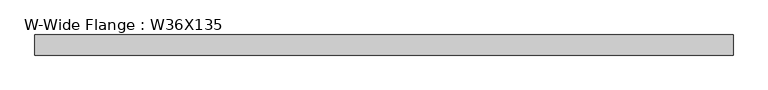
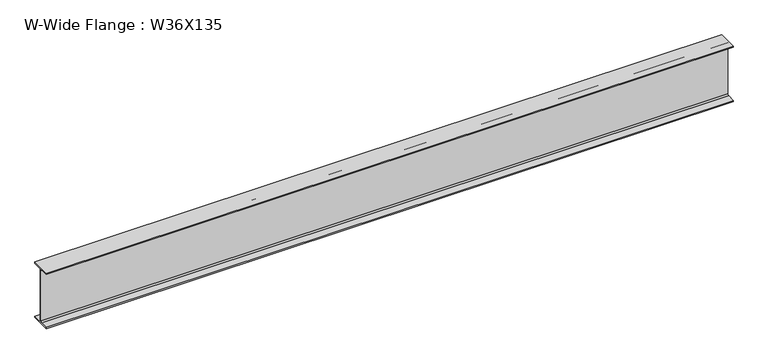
"""IFC4 building model written with IfcOpenShell, lengths in millimetres: beam geometry, W-Wide Flange : W36X135."""

import ifcopenshell
import ifcopenshell.guid

model = None  # the IFC model being written
_history = None  # IfcOwnerHistory: only IFC2X3 demands one
_inside = {}  # id of a spatial element -> (the spatial element, [elements in it])
_under = {}  # id of a project, library or spatial element -> (it, [spatial elements below it])
_declared = {}  # id of a project -> (the project, [libraries it declares])
_typed = {}  # id of a type object -> (the type object, [elements of that type])
_made_of = {}  # id of a material, layer set ... -> (it, [elements and type objects made of it])


def new_model(schema):
    """Start an empty IFC model of exactly this schema.

    Asked for "IFC4X3", IfcOpenShell would pick the latest addendum, in which some entities
    have other attributes; the version numbers below select the first issue.
    IFC2X3 requires an IfcOwnerHistory on every rooted entity: one is made here for all.
    """
    global model, _history
    if schema == "IFC4X3":
        model = ifcopenshell.file(schema_version=(4, 3, 0, 0))
    else:
        model = ifcopenshell.file(schema=schema)
    _inside.clear()
    _under.clear()
    _declared.clear()
    _typed.clear()
    _made_of.clear()
    _history = None
    if model.schema == "IFC2X3":
        org = make("IfcOrganization", Name="unknown")
        user = make(
            "IfcPersonAndOrganization",
            ThePerson=make("IfcPerson", FamilyName="unknown"),
            TheOrganization=org,
        )
        app = make(
            "IfcApplication",
            ApplicationDeveloper=org,
            Version="unknown",
            ApplicationFullName="unknown",
            ApplicationIdentifier="unknown",
        )
        _history = make(
            "IfcOwnerHistory",
            OwningUser=user,
            OwningApplication=app,
            ChangeAction="ADDED",
            CreationDate=0,
        )
    return model


def make(cls, **values):
    """One entity of the class cls with the attributes given. An attribute that is None is left unset."""
    return model.create_entity(
        cls, **{name: value for name, value in values.items() if value is not None}
    )


def rooted(cls, **values):
    """An entity with a GlobalId (a new one), such as an element, a storey or a relation."""
    return make(cls, GlobalId=ifcopenshell.guid.new(), OwnerHistory=_history, **values)


def si_unit(unit_type, name, prefix=None):
    """IfcSIUnit, for example si_unit("LENGTHUNIT", "METRE", prefix="MILLI")."""
    return make("IfcSIUnit", UnitType=unit_type, Prefix=prefix, Name=name)


def assignment(units):
    """IfcUnitAssignment: the units of a project."""
    return None if units is None else make("IfcUnitAssignment", Units=units)


def point(xyz):
    """IfcCartesianPoint."""
    return None if xyz is None else make("IfcCartesianPoint", Coordinates=xyz)


def direction(xyz):
    """IfcDirection."""
    return None if xyz is None else make("IfcDirection", DirectionRatios=xyz)


def frame(location, z_axis=None, x_axis=None):
    """IfcAxis2Placement3D, a coordinate frame: its origin and axes. An axis left out is left unset."""
    return make(
        "IfcAxis2Placement3D",
        Location=point(location),
        Axis=direction(z_axis),
        RefDirection=direction(x_axis),
    )


def frame_2d(location, x_axis=None):
    """IfcAxis2Placement2D, a coordinate frame in the plane: its origin and x axis."""
    return make(
        "IfcAxis2Placement2D", Location=point(location), RefDirection=direction(x_axis)
    )


def origin():
    """The frame at (0, 0, 0) with its axes left unset."""
    return frame((0.0, 0.0, 0.0))


def place(relative_to, where):
    """IfcLocalPlacement: puts the frame where relative to a parent placement (None: the world)."""
    return make(
        "IfcLocalPlacement", PlacementRelTo=relative_to, RelativePlacement=where
    )


def context(
    kind, dimensions, precision=None, world=None, true_north=None, identifier=None
):
    """IfcGeometricRepresentationContext, for example the 3D "Model" context."""
    return make(
        "IfcGeometricRepresentationContext",
        ContextIdentifier=identifier,
        ContextType=kind,
        CoordinateSpaceDimension=dimensions,
        Precision=precision,
        WorldCoordinateSystem=world,
        TrueNorth=true_north,
    )


def project(units=None, contexts=None):
    """IfcProject with its units and contexts."""
    return rooted(
        "IfcProject",
        Name="project",
        RepresentationContexts=contexts,
        UnitsInContext=assignment(units),
    )


def spatial(cls, under=None, at=None, **own):
    """A site, building, storey or space (cls), placed at a placement, below another one or the project."""
    s = rooted(cls, ObjectPlacement=at, **own)
    if under is not None:
        _under.setdefault(under.id(), (under, []))[1].append(s)
    return s


def polyline(points):
    """IfcPolyline through the points."""
    return make("IfcPolyline", Points=[point(p) for p in points])


def circle_curve(where, radius):
    """IfcCircle in the frame where."""
    return make("IfcCircle", Position=where, Radius=radius)


def trimmed(basis, trim1, trim2, sense, master):
    """IfcTrimmedCurve: the piece of a basis curve between two trims."""
    return make(
        "IfcTrimmedCurve",
        BasisCurve=basis,
        Trim1=trim1,
        Trim2=trim2,
        SenseAgreement=sense,
        MasterRepresentation=master,
    )


def segment(curve, same_sense, transition):
    """IfcCompositeCurveSegment."""
    return make(
        "IfcCompositeCurveSegment",
        Transition=transition,
        SameSense=same_sense,
        ParentCurve=curve,
    )


def composite_curve(segments, self_intersect=None):
    """IfcCompositeCurve: segments joined end to end."""
    return make("IfcCompositeCurve", Segments=segments, SelfIntersect=self_intersect)


def outline(outer, holes=None, kind="AREA"):
    """IfcArbitraryClosedProfileDef: a profile drawn as a closed curve; with holes, ...WithVoids."""
    if holes is None:
        return make("IfcArbitraryClosedProfileDef", ProfileType=kind, OuterCurve=outer)
    return make(
        "IfcArbitraryProfileDefWithVoids",
        ProfileType=kind,
        OuterCurve=outer,
        InnerCurves=holes,
    )


def extrude(swept, where, along, depth):
    """IfcExtrudedAreaSolid: the profile swept, set in the frame where, extruded along a direction by depth."""
    return make(
        "IfcExtrudedAreaSolid",
        SweptArea=swept,
        Position=where,
        ExtrudedDirection=direction(along),
        Depth=depth,
    )


def shape(context_of_items, identifier, shape_type, items):
    """IfcShapeRepresentation: the items that make up one representation, for example the "Body"."""
    return make(
        "IfcShapeRepresentation",
        ContextOfItems=context_of_items,
        RepresentationIdentifier=identifier,
        RepresentationType=shape_type,
        Items=items,
    )


def source(mapping_origin, context_of_items, identifier, shape_type, items):
    """IfcRepresentationMap: a shape defined once, which mapped items show again and again."""
    return make(
        "IfcRepresentationMap",
        MappingOrigin=mapping_origin,
        MappedRepresentation=shape(context_of_items, identifier, shape_type, items),
    )


def transform(
    local_origin,
    x_axis=None,
    y_axis=None,
    z_axis=None,
    scale=None,
    scale2=None,
    scale3=None,
    uniform=True,
):
    """IfcCartesianTransformationOperator3D, or its non-uniform kind. x_axis, y_axis, z_axis: its Axis1, 2, 3."""
    if uniform:
        return make(
            "IfcCartesianTransformationOperator3D",
            Axis1=direction(x_axis),
            Axis2=direction(y_axis),
            LocalOrigin=point(local_origin),
            Scale=scale,
            Axis3=direction(z_axis),
        )
    return make(
        "IfcCartesianTransformationOperator3DnonUniform",
        Axis1=direction(x_axis),
        Axis2=direction(y_axis),
        LocalOrigin=point(local_origin),
        Scale=scale,
        Axis3=direction(z_axis),
        Scale2=scale2,
        Scale3=scale3,
    )


def mapped(mapping_source, mapping_target):
    """IfcMappedItem: shows the shape of a source again, moved by a transform."""
    return make(
        "IfcMappedItem", MappingSource=mapping_source, MappingTarget=mapping_target
    )


def made_of(thing, what):
    """Note that an element or type object is made of a material, layer set ...; save() writes the relation."""
    if what is not None:
        _made_of.setdefault(what.id(), (what, []))[1].append(thing)
    return thing


def element(
    cls,
    number,
    at=None,
    inside=None,
    cuts=None,
    type_object=None,
    material=None,
    context=None,
    identifier="Body",
    shape_type=None,
    held_by="IfcProductDefinitionShape",
    body=None,
    shapes=None,
    **own,
):
    """One element of the class cls, such as IfcWall. Its Tag is "e" and its number.

    at: its placement. inside: the storey or other place that contains it. cuts: it is an
    opening in that element (IfcRelVoidsElement). A single representation is given by context,
    identifier, shape_type and body (its items); several are given by shapes. held_by: the class
    of the entity that holds the representations. save() writes the other relations.
    """
    e = rooted(cls, Tag="e%d" % number, ObjectPlacement=at, **own)
    if body is not None:
        shapes = [shape(context, identifier, shape_type, body)]
    if shapes is not None:
        e.Representation = make(held_by, Representations=shapes)
    if inside is not None:
        _inside.setdefault(inside.id(), (inside, []))[1].append(e)
    if cuts is not None:
        rooted(
            "IfcRelVoidsElement", RelatingBuildingElement=cuts, RelatedOpeningElement=e
        )
    if type_object is not None:
        _typed.setdefault(type_object.id(), (type_object, []))[1].append(e)
    return made_of(e, material)


def aggregate(whole, parts):
    """IfcRelAggregates: a whole, such as a stair, and the parts it consists of."""
    return rooted("IfcRelAggregates", RelatingObject=whole, RelatedObjects=parts)


def save(model, path):
    """Write the relations noted so far, then the file.

    IfcRelAggregates (storeys below a building ...), IfcRelContainedInSpatialStructure (elements
    in a storey), IfcRelDefinesByType, IfcRelAssociatesMaterial and IfcRelDeclares: one each for
    every whole, place, type object, material and project.
    """
    for whole, parts in _under.values():
        aggregate(whole, parts)
    for where, things in _inside.values():
        rooted(
            "IfcRelContainedInSpatialStructure",
            RelatedElements=things,
            RelatingStructure=where,
        )
    for kind, things in _typed.values():
        rooted("IfcRelDefinesByType", RelatedObjects=things, RelatingType=kind)
    for what, things in _made_of.values():
        rooted("IfcRelAssociatesMaterial", RelatedObjects=things, RelatingMaterial=what)
    for by, libraries in _declared.values():
        rooted("IfcRelDeclares", RelatingContext=by, RelatedDefinitions=libraries)
    model.write(path)


def w_wide_flange_w36x135_5b543eee(model_context):
    return source(origin(), model_context, "Body", "SweptSolid", [
        extrude(outline(composite_curve([segment(polyline([(152.4, -432.054), (152.4, -452.12), (-152.4, -452.12), (-152.4, -432.054), (-30.4165, -432.054)]), True, "CONTINUOUS"), segment(trimmed(circle_curve(frame_2d((-30.4165, -409.2575)), 22.7965), [point((-30.4165, -432.054))], [point((-7.62, -409.2575))], True, "CARTESIAN"), True, "CONTINUOUS"), segment(polyline([(-7.62, -409.2575), (-7.62, 409.2575)]), True, "CONTINUOUS"), segment(trimmed(circle_curve(frame_2d((-30.4165, 409.2575)), 22.7965), [point((-7.62, 409.2575))], [point((-30.4165, 432.054))], True, "CARTESIAN"), True, "CONTINUOUS"), segment(polyline([(-30.4165, 432.054), (-152.4, 432.054), (-152.4, 452.12), (152.4, 452.12), (152.4, 432.054), (30.4165, 432.054)]), True, "CONTINUOUS"), segment(trimmed(circle_curve(frame_2d((30.4165, 409.2575)), 22.7965), [point((30.4165, 432.054))], [point((7.62, 409.2575))], True, "CARTESIAN"), True, "CONTINUOUS"), segment(polyline([(7.62, 409.2575), (7.62, -409.2575)]), True, "CONTINUOUS"), segment(trimmed(circle_curve(frame_2d((30.4165, -409.2575)), 22.7965), [point((7.62, -409.2575))], [point((30.4165, -432.054))], True, "CARTESIAN"), True, "CONTINUOUS"), segment(polyline([(30.4165, -432.054), (152.4, -432.054)]), True, "CONTINUOUS")], self_intersect=False)), frame((-5347.5061528, 0.0, 0.0), z_axis=(1.0, 0.0, 0.0), x_axis=(0.0, 1.0, 0.0)), (0.0, 0.0, 1.0), 10580.7095618),
    ])


if __name__ == "__main__":
    model = new_model("IFC4")
    model_context = context("Model", 3, world=origin())
    ifc_project = project(units=[si_unit("LENGTHUNIT", "METRE", prefix="MILLI")], contexts=[model_context])
    site = spatial("IfcSite", under=ifc_project)
    building = spatial("IfcBuilding", under=site)
    placement = place(None, origin())
    w_wide_flange_w36x135_shape = w_wide_flange_w36x135_5b543eee(model_context)
    element("IfcBeam", 1, ObjectType="W-Wide Flange : W36X135", at=placement, inside=building, context=model_context, shape_type="MappedRepresentation", body=[
        mapped(w_wide_flange_w36x135_shape, transform((0.0, 0.0, 0.0), x_axis=(1.0, 0.0, 0.0), y_axis=(0.0, 1.0, 0.0), z_axis=(0.0, 0.0, 1.0))),
    ])
    save(model, "model.ifc")
